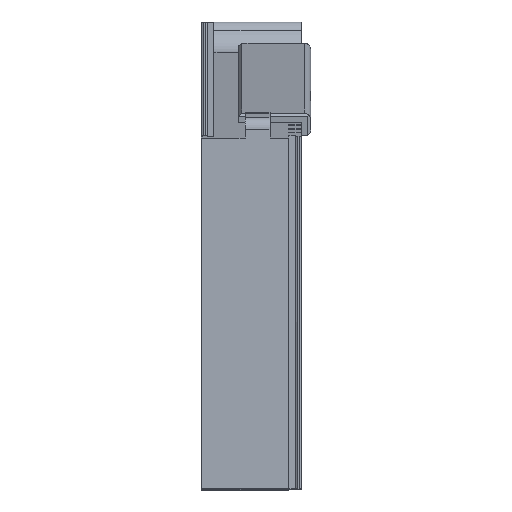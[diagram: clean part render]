
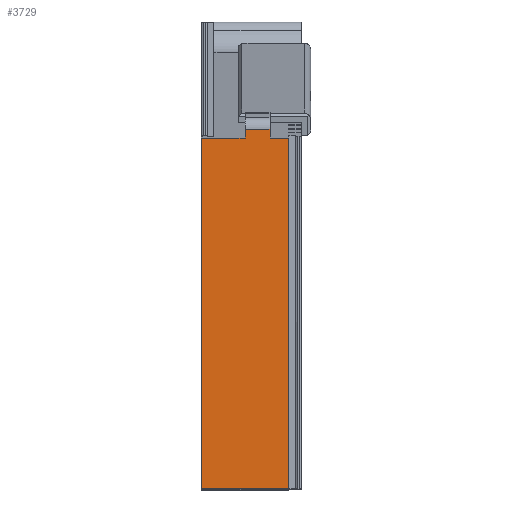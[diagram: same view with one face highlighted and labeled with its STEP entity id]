
A CAD part, top view. The second image highlights one B-rep face of the part: STEP entity #3729.
In plain terms, the highlighted planar face has unit normal (0, 0, 1).
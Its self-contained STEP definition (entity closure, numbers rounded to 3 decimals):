
#275 = LINE ( 'NONE', #6735, #6270 ) ;
#383 = LINE ( 'NONE', #11541, #7255 ) ;
#389 = CARTESIAN_POINT ( 'NONE',  ( 1883.845, 57.618, -1204.638 ) ) ;
#565 = EDGE_CURVE ( 'NONE', #1054, #3842, #1878, .T. ) ;
#639 = VECTOR ( 'NONE', #4691, 1000. ) ;
#767 = FACE_OUTER_BOUND ( 'NONE', #1721, .T. ) ;
#1054 = VERTEX_POINT ( 'NONE', #389 ) ;
#1446 = CARTESIAN_POINT ( 'NONE',  ( 1887.845, 56.25, -1204.638 ) ) ;
#1513 = ORIENTED_EDGE ( 'NONE', *, *, #5081, .F. ) ;
#1592 = CARTESIAN_POINT ( 'NONE',  ( 1890.845, 56.25, -1204.638 ) ) ;
#1721 = EDGE_LOOP ( 'NONE', ( #2685, #8309, #10282, #7186, #10797, #1513, #7515, #6620 ) ) ;
#1878 = LINE ( 'NONE', #4702, #2177 ) ;
#2173 = VERTEX_POINT ( 'NONE', #11786 ) ;
#2177 = VECTOR ( 'NONE', #4521, 1000. ) ;
#2186 = DIRECTION ( 'NONE',  ( 1., 0., 0. ) ) ;
#2401 = LINE ( 'NONE', #10787, #11105 ) ;
#2468 = VERTEX_POINT ( 'NONE', #8994 ) ;
#2497 = EDGE_CURVE ( 'NONE', #3842, #10419, #2401, .T. ) ;
#2672 = LINE ( 'NONE', #8219, #639 ) ;
#2685 = ORIENTED_EDGE ( 'NONE', *, *, #7329, .F. ) ;
#2735 = DIRECTION ( 'NONE',  ( 0., 0., -1. ) ) ;
#3501 = CARTESIAN_POINT ( 'NONE',  ( 1869.845, 56.25, -1204.638 ) ) ;
#3515 = CARTESIAN_POINT ( 'NONE',  ( 1876.845, 0., -1204.638 ) ) ;
#3729 = ADVANCED_FACE ( 'NONE', ( #767 ), #4512, .F. ) ;
#3842 = VERTEX_POINT ( 'NONE', #4812 ) ;
#4372 = DIRECTION ( 'NONE',  ( 1., 0., 0. ) ) ;
#4512 = PLANE ( 'NONE',  #6427 ) ;
#4521 = DIRECTION ( 'NONE',  ( 1., 0., 0. ) ) ;
#4691 = DIRECTION ( 'NONE',  ( 0., -1., 0. ) ) ;
#4702 = CARTESIAN_POINT ( 'NONE',  ( 1883.845, 57.618, -1204.638 ) ) ;
#4770 = EDGE_CURVE ( 'NONE', #2468, #2173, #275, .T. ) ;
#4812 = CARTESIAN_POINT ( 'NONE',  ( 1887.845, 57.618, -1204.638 ) ) ;
#5081 = EDGE_CURVE ( 'NONE', #2468, #10452, #383, .T. ) ;
#5193 = CARTESIAN_POINT ( 'NONE',  ( 1883.845, 56.25, -1204.638 ) ) ;
#5512 = LINE ( 'NONE', #11883, #7576 ) ;
#5791 = VECTOR ( 'NONE', #4372, 1000. ) ;
#6260 = DIRECTION ( 'NONE',  ( 0., -1., 0. ) ) ;
#6270 = VECTOR ( 'NONE', #10502, 1000. ) ;
#6427 = AXIS2_PLACEMENT_3D ( 'NONE', #11187, #2735, #8351 ) ;
#6470 = EDGE_CURVE ( 'NONE', #1054, #10452, #2672, .T. ) ;
#6597 = CARTESIAN_POINT ( 'NONE',  ( 1890.845, 0., -1204.638 ) ) ;
#6620 = ORIENTED_EDGE ( 'NONE', *, *, #10828, .T. ) ;
#6735 = CARTESIAN_POINT ( 'NONE',  ( 1876.845, 75., -1204.638 ) ) ;
#6904 = DIRECTION ( 'NONE',  ( 1., 0., 0. ) ) ;
#7186 = ORIENTED_EDGE ( 'NONE', *, *, #565, .F. ) ;
#7255 = VECTOR ( 'NONE', #6904, 1000. ) ;
#7329 = EDGE_CURVE ( 'NONE', #11200, #11014, #5512, .T. ) ;
#7515 = ORIENTED_EDGE ( 'NONE', *, *, #4770, .T. ) ;
#7576 = VECTOR ( 'NONE', #6260, 1000. ) ;
#7785 = LINE ( 'NONE', #3501, #7830 ) ;
#7830 = VECTOR ( 'NONE', #2186, 1000. ) ;
#8219 = CARTESIAN_POINT ( 'NONE',  ( 1883.845, 56.25, -1204.638 ) ) ;
#8309 = ORIENTED_EDGE ( 'NONE', *, *, #8865, .F. ) ;
#8351 = DIRECTION ( 'NONE',  ( -1., 0., 0. ) ) ;
#8865 = EDGE_CURVE ( 'NONE', #10419, #11200, #7785, .T. ) ;
#8994 = CARTESIAN_POINT ( 'NONE',  ( 1876.845, 56.25, -1204.638 ) ) ;
#9864 = DIRECTION ( 'NONE',  ( 0., -1., 0. ) ) ;
#10282 = ORIENTED_EDGE ( 'NONE', *, *, #2497, .F. ) ;
#10419 = VERTEX_POINT ( 'NONE', #1446 ) ;
#10452 = VERTEX_POINT ( 'NONE', #5193 ) ;
#10502 = DIRECTION ( 'NONE',  ( 0., -1., 0. ) ) ;
#10787 = CARTESIAN_POINT ( 'NONE',  ( 1887.845, 56.25, -1204.638 ) ) ;
#10797 = ORIENTED_EDGE ( 'NONE', *, *, #6470, .T. ) ;
#10828 = EDGE_CURVE ( 'NONE', #2173, #11014, #11050, .T. ) ;
#11014 = VERTEX_POINT ( 'NONE', #6597 ) ;
#11050 = LINE ( 'NONE', #3515, #5791 ) ;
#11105 = VECTOR ( 'NONE', #9864, 1000. ) ;
#11187 = CARTESIAN_POINT ( 'NONE',  ( 1876.845, 75., -1204.638 ) ) ;
#11200 = VERTEX_POINT ( 'NONE', #1592 ) ;
#11541 = CARTESIAN_POINT ( 'NONE',  ( 1869.845, 56.25, -1204.638 ) ) ;
#11786 = CARTESIAN_POINT ( 'NONE',  ( 1876.845, 0., -1204.638 ) ) ;
#11883 = CARTESIAN_POINT ( 'NONE',  ( 1890.845, 75., -1204.638 ) ) ;
